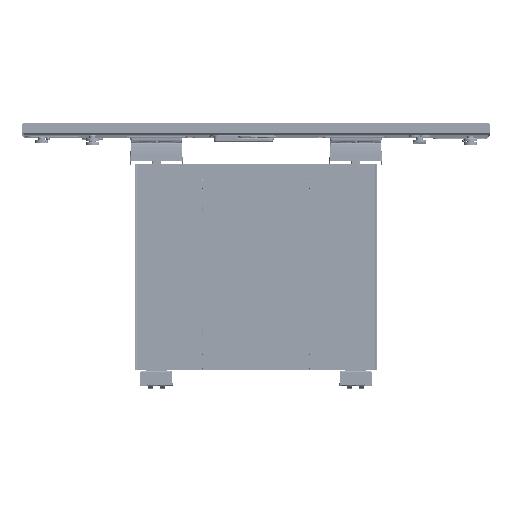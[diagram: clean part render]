
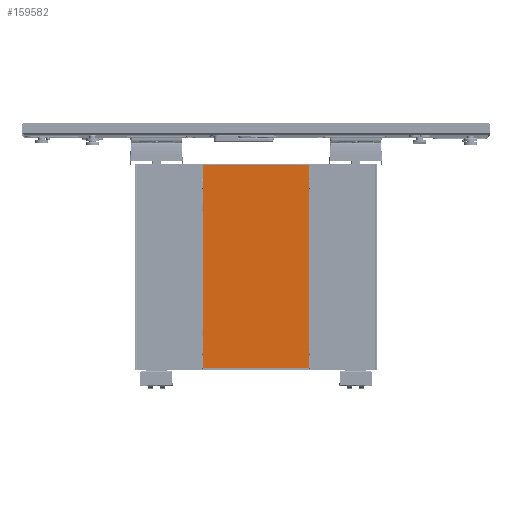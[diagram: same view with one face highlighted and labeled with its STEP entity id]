
A CAD part, top view. The second image highlights one B-rep face of the part: STEP entity #159582.
In plain terms, the highlighted planar face has unit normal (0, 0, 1).
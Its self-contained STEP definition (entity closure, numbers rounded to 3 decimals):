
#13136=PLANE('',#172230);
#16031=FACE_OUTER_BOUND('',#26636,.T.);
#26636=EDGE_LOOP('',(#109371,#109372,#109373,#109374));
#37931=LINE('',#245964,#47535);
#37932=LINE('',#245966,#47536);
#37933=LINE('',#245968,#47537);
#37934=LINE('',#245969,#47538);
#47535=VECTOR('',#193364,0.394);
#47536=VECTOR('',#193365,0.394);
#47537=VECTOR('',#193366,0.394);
#47538=VECTOR('',#193367,0.394);
#66810=VERTEX_POINT('',#245962);
#66811=VERTEX_POINT('',#245963);
#66812=VERTEX_POINT('',#245965);
#66813=VERTEX_POINT('',#245967);
#82481=EDGE_CURVE('',#66810,#66811,#37931,.T.);
#82482=EDGE_CURVE('',#66812,#66810,#37932,.T.);
#82483=EDGE_CURVE('',#66813,#66812,#37933,.T.);
#82484=EDGE_CURVE('',#66811,#66813,#37934,.T.);
#109371=ORIENTED_EDGE('',*,*,#82481,.T.);
#109372=ORIENTED_EDGE('',*,*,#82484,.T.);
#109373=ORIENTED_EDGE('',*,*,#82483,.T.);
#109374=ORIENTED_EDGE('',*,*,#82482,.T.);
#159582=ADVANCED_FACE('',(#16031),#13136,.T.);
#172230=AXIS2_PLACEMENT_3D('',#246050,#193460,#193461);
#193364=DIRECTION('',(0.,1.,0.));
#193365=DIRECTION('',(1.,0.,0.));
#193366=DIRECTION('',(0.,-1.,0.));
#193367=DIRECTION('',(-1.,0.,0.));
#193460=DIRECTION('center_axis',(0.,0.,1.));
#193461=DIRECTION('ref_axis',(1.,0.,0.));
#245962=CARTESIAN_POINT('',(6.141,-11.734,0.797));
#245963=CARTESIAN_POINT('',(6.141,11.734,0.797));
#245964=CARTESIAN_POINT('',(6.141,5.867,0.797));
#245965=CARTESIAN_POINT('',(-6.141,-11.734,0.797));
#245966=CARTESIAN_POINT('',(3.07,-11.734,0.797));
#245967=CARTESIAN_POINT('',(-6.141,11.734,0.797));
#245968=CARTESIAN_POINT('',(-6.141,-5.867,0.797));
#245969=CARTESIAN_POINT('',(-3.07,11.734,0.797));
#246050=CARTESIAN_POINT('Origin',(0.,0.,
0.797));
